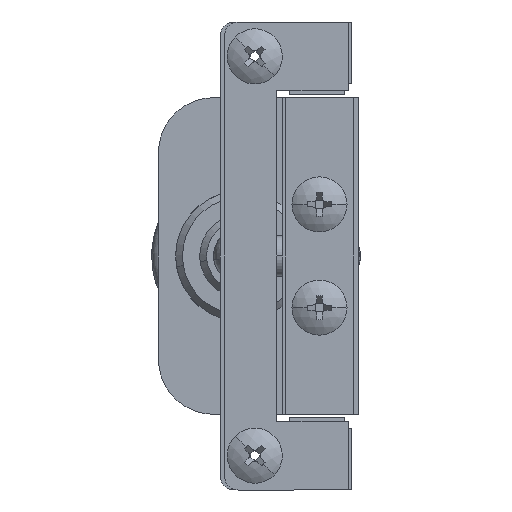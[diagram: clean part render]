
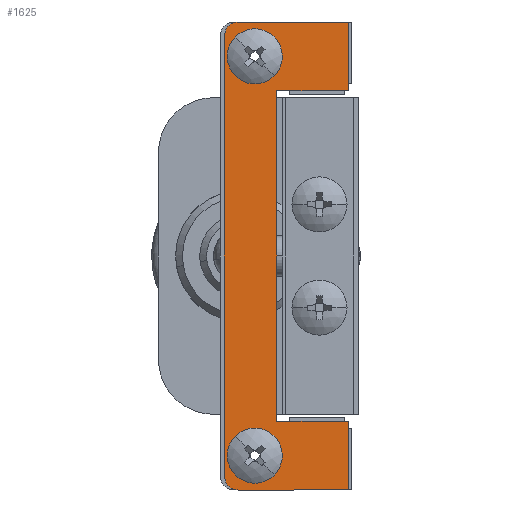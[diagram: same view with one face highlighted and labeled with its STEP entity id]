
A CAD part, left-side view. The second image highlights one B-rep face of the part: STEP entity #1625.
In plain terms, the highlighted planar face has unit normal (-1, 0, 0).
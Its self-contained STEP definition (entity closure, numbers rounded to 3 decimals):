
#131 = VECTOR ( 'NONE', #6939, 1000. ) ;
#203 = VECTOR ( 'NONE', #14445, 1000. ) ;
#547 = EDGE_LOOP ( 'NONE', ( #10727, #1965, #15044, #6962, #5055, #17243, #20001, #15461, #7561, #3899 ) ) ;
#947 = LINE ( 'NONE', #17800, #16704 ) ;
#1296 = CARTESIAN_POINT ( 'NONE',  ( -18.746, 6.7, -16. ) ) ;
#1408 = CARTESIAN_POINT ( 'NONE',  ( -18.746, 5.7, 17. ) ) ;
#1413 = DIRECTION ( 'NONE',  ( 1., 0., 0. ) ) ;
#1471 = EDGE_LOOP ( 'NONE', ( #14896, #14363 ) ) ;
#1620 = CARTESIAN_POINT ( 'NONE',  ( -18.746, 4.5, -14.5 ) ) ;
#1621 = LINE ( 'NONE', #19567, #13648 ) ;
#1625 = ADVANCED_FACE ( 'NONE', ( #9036, #2366, #2138 ), #13181, .T. ) ;
#1647 = CARTESIAN_POINT ( 'NONE',  ( -18.746, 5.7, -16. ) ) ;
#1651 = CIRCLE ( 'NONE', #7283, 1. ) ;
#1965 = ORIENTED_EDGE ( 'NONE', *, *, #8799, .T. ) ;
#2037 = CARTESIAN_POINT ( 'NONE',  ( -18.746, -2.3, 12. ) ) ;
#2138 = FACE_OUTER_BOUND ( 'NONE', #547, .T. ) ;
#2366 = FACE_BOUND ( 'NONE', #1471, .T. ) ;
#2419 = CIRCLE ( 'NONE', #7161, 1. ) ;
#2581 = VECTOR ( 'NONE', #14267, 1000. ) ;
#2880 = DIRECTION ( 'NONE',  ( 0., 0., -1. ) ) ;
#3230 = CARTESIAN_POINT ( 'NONE',  ( -18.746, 4.5, -14.5 ) ) ;
#3899 = ORIENTED_EDGE ( 'NONE', *, *, #8322, .F. ) ;
#4064 = VERTEX_POINT ( 'NONE', #9789 ) ;
#4355 = CARTESIAN_POINT ( 'NONE',  ( -18.746, -2.3, 17. ) ) ;
#4361 = DIRECTION ( 'NONE',  ( 0., 0., -1. ) ) ;
#4437 = DIRECTION ( 'NONE',  ( 0., 1., 0. ) ) ;
#5055 = ORIENTED_EDGE ( 'NONE', *, *, #8669, .F. ) ;
#5320 = ORIENTED_EDGE ( 'NONE', *, *, #9054, .T. ) ;
#5531 = VERTEX_POINT ( 'NONE', #7450 ) ;
#5895 = CARTESIAN_POINT ( 'NONE',  ( -18.746, -2.3, -12. ) ) ;
#6596 = VECTOR ( 'NONE', #4437, 1000. ) ;
#6839 = VERTEX_POINT ( 'NONE', #4355 ) ;
#6901 = AXIS2_PLACEMENT_3D ( 'NONE', #18201, #18178, #17691 ) ;
#6935 = AXIS2_PLACEMENT_3D ( 'NONE', #19432, #19327, #19258 ) ;
#6939 = DIRECTION ( 'NONE',  ( 0., -1., 0. ) ) ;
#6962 = ORIENTED_EDGE ( 'NONE', *, *, #8724, .T. ) ;
#6993 = AXIS2_PLACEMENT_3D ( 'NONE', #1620, #1413, #4361 ) ;
#7026 = AXIS2_PLACEMENT_3D ( 'NONE', #3230, #12452, #2880 ) ;
#7161 = AXIS2_PLACEMENT_3D ( 'NONE', #16085, #15831, #15810 ) ;
#7283 = AXIS2_PLACEMENT_3D ( 'NONE', #1647, #19182, #19099 ) ;
#7450 = CARTESIAN_POINT ( 'NONE',  ( -18.746, 4.5, -15.75 ) ) ;
#7561 = ORIENTED_EDGE ( 'NONE', *, *, #8389, .F. ) ;
#7606 = CARTESIAN_POINT ( 'NONE',  ( -18.746, -2.3, 17. ) ) ;
#7973 = CARTESIAN_POINT ( 'NONE',  ( -18.746, 4.5, -13.25 ) ) ;
#8322 = EDGE_CURVE ( 'NONE', #6839, #9801, #10529, .T. ) ;
#8389 = EDGE_CURVE ( 'NONE', #9801, #19054, #13400, .T. ) ;
#8393 = CARTESIAN_POINT ( 'NONE',  ( -18.746, 4.5, 15.75 ) ) ;
#8414 = VERTEX_POINT ( 'NONE', #1408 ) ;
#8459 = EDGE_CURVE ( 'NONE', #19054, #15779, #1621, .T. ) ;
#8518 = EDGE_CURVE ( 'NONE', #15779, #15585, #10979, .T. ) ;
#8565 = EDGE_CURVE ( 'NONE', #15585, #14036, #11193, .T. ) ;
#8669 = EDGE_CURVE ( 'NONE', #14036, #9104, #18147, .T. ) ;
#8724 = EDGE_CURVE ( 'NONE', #19462, #9104, #1651, .T. ) ;
#8766 = DIRECTION ( 'NONE',  ( 0., 0., -1. ) ) ;
#8799 = EDGE_CURVE ( 'NONE', #8414, #11865, #2419, .T. ) ;
#8857 = EDGE_CURVE ( 'NONE', #19462, #11865, #18474, .T. ) ;
#8999 = EDGE_CURVE ( 'NONE', #8414, #6839, #947, .T. ) ;
#9036 = FACE_BOUND ( 'NONE', #15956, .T. ) ;
#9054 = EDGE_CURVE ( 'NONE', #5531, #12602, #15937, .T. ) ;
#9062 = EDGE_CURVE ( 'NONE', #12602, #5531, #9595, .T. ) ;
#9093 = EDGE_CURVE ( 'NONE', #4064, #18915, #17716, .T. ) ;
#9104 = VERTEX_POINT ( 'NONE', #19458 ) ;
#9124 = EDGE_CURVE ( 'NONE', #18915, #4064, #9293, .T. ) ;
#9195 = CARTESIAN_POINT ( 'NONE',  ( -18.746, -2.3, -17. ) ) ;
#9293 = CIRCLE ( 'NONE', #6901, 1.25 ) ;
#9385 = DIRECTION ( 'NONE',  ( 0., 0., 1. ) ) ;
#9595 = CIRCLE ( 'NONE', #6993, 1.25 ) ;
#9789 = CARTESIAN_POINT ( 'NONE',  ( -18.746, 4.5, 13.25 ) ) ;
#9801 = VERTEX_POINT ( 'NONE', #2037 ) ;
#10179 = CARTESIAN_POINT ( 'NONE',  ( -18.746, 6.7, -17. ) ) ;
#10395 = CARTESIAN_POINT ( 'NONE',  ( -18.746, 2.9, 12. ) ) ;
#10529 = LINE ( 'NONE', #16767, #13439 ) ;
#10623 = DIRECTION ( 'NONE',  ( 0., -1., 0. ) ) ;
#10727 = ORIENTED_EDGE ( 'NONE', *, *, #8999, .F. ) ;
#10866 = DIRECTION ( 'NONE',  ( 0., 1., 0. ) ) ;
#10979 = LINE ( 'NONE', #5895, #131 ) ;
#11088 = ORIENTED_EDGE ( 'NONE', *, *, #9062, .T. ) ;
#11193 = LINE ( 'NONE', #13417, #2581 ) ;
#11704 = CARTESIAN_POINT ( 'NONE',  ( -18.746, 6.7, 16. ) ) ;
#11865 = VERTEX_POINT ( 'NONE', #11704 ) ;
#11946 = VECTOR ( 'NONE', #10866, 1000. ) ;
#12452 = DIRECTION ( 'NONE',  ( 1., 0., 0. ) ) ;
#12602 = VERTEX_POINT ( 'NONE', #7973 ) ;
#13181 = PLANE ( 'NONE',  #14405 ) ;
#13400 = LINE ( 'NONE', #10395, #6596 ) ;
#13417 = CARTESIAN_POINT ( 'NONE',  ( -18.746, -2.3, -17. ) ) ;
#13439 = VECTOR ( 'NONE', #16141, 1000. ) ;
#13648 = VECTOR ( 'NONE', #8766, 1000. ) ;
#14036 = VERTEX_POINT ( 'NONE', #9195 ) ;
#14267 = DIRECTION ( 'NONE',  ( 0., 0., -1. ) ) ;
#14344 = CARTESIAN_POINT ( 'NONE',  ( -18.746, 6.7, 17. ) ) ;
#14363 = ORIENTED_EDGE ( 'NONE', *, *, #9124, .T. ) ;
#14405 = AXIS2_PLACEMENT_3D ( 'NONE', #7606, #15150, #9385 ) ;
#14445 = DIRECTION ( 'NONE',  ( 0., 0., 1. ) ) ;
#14896 = ORIENTED_EDGE ( 'NONE', *, *, #9093, .T. ) ;
#15044 = ORIENTED_EDGE ( 'NONE', *, *, #8857, .F. ) ;
#15134 = CARTESIAN_POINT ( 'NONE',  ( -18.746, 2.9, -12. ) ) ;
#15150 = DIRECTION ( 'NONE',  ( -1., 0., 0. ) ) ;
#15461 = ORIENTED_EDGE ( 'NONE', *, *, #8459, .F. ) ;
#15585 = VERTEX_POINT ( 'NONE', #16513 ) ;
#15748 = CARTESIAN_POINT ( 'NONE',  ( -18.746, 2.9, 12. ) ) ;
#15779 = VERTEX_POINT ( 'NONE', #15134 ) ;
#15810 = DIRECTION ( 'NONE',  ( 0., 0., 1. ) ) ;
#15831 = DIRECTION ( 'NONE',  ( -1., 0., 0. ) ) ;
#15937 = CIRCLE ( 'NONE', #7026, 1.25 ) ;
#15956 = EDGE_LOOP ( 'NONE', ( #5320, #11088 ) ) ;
#16085 = CARTESIAN_POINT ( 'NONE',  ( -18.746, 5.7, 16. ) ) ;
#16141 = DIRECTION ( 'NONE',  ( 0., 0., -1. ) ) ;
#16513 = CARTESIAN_POINT ( 'NONE',  ( -18.746, -2.3, -12. ) ) ;
#16704 = VECTOR ( 'NONE', #10623, 1000. ) ;
#16767 = CARTESIAN_POINT ( 'NONE',  ( -18.746, -2.3, 12. ) ) ;
#17243 = ORIENTED_EDGE ( 'NONE', *, *, #8565, .F. ) ;
#17691 = DIRECTION ( 'NONE',  ( 0., 0., -1. ) ) ;
#17716 = CIRCLE ( 'NONE', #6935, 1.25 ) ;
#17800 = CARTESIAN_POINT ( 'NONE',  ( -18.746, -2.3, 17. ) ) ;
#18147 = LINE ( 'NONE', #10179, #11946 ) ;
#18178 = DIRECTION ( 'NONE',  ( 1., 0., 0. ) ) ;
#18201 = CARTESIAN_POINT ( 'NONE',  ( -18.746, 4.5, 14.5 ) ) ;
#18474 = LINE ( 'NONE', #14344, #203 ) ;
#18915 = VERTEX_POINT ( 'NONE', #8393 ) ;
#19054 = VERTEX_POINT ( 'NONE', #15748 ) ;
#19099 = DIRECTION ( 'NONE',  ( 0., 0., 1. ) ) ;
#19182 = DIRECTION ( 'NONE',  ( -1., 0., 0. ) ) ;
#19258 = DIRECTION ( 'NONE',  ( 0., 0., -1. ) ) ;
#19327 = DIRECTION ( 'NONE',  ( 1., 0., 0. ) ) ;
#19432 = CARTESIAN_POINT ( 'NONE',  ( -18.746, 4.5, 14.5 ) ) ;
#19458 = CARTESIAN_POINT ( 'NONE',  ( -18.746, 5.7, -17. ) ) ;
#19462 = VERTEX_POINT ( 'NONE', #1296 ) ;
#19567 = CARTESIAN_POINT ( 'NONE',  ( -18.746, 2.9, -12. ) ) ;
#20001 = ORIENTED_EDGE ( 'NONE', *, *, #8518, .F. ) ;
